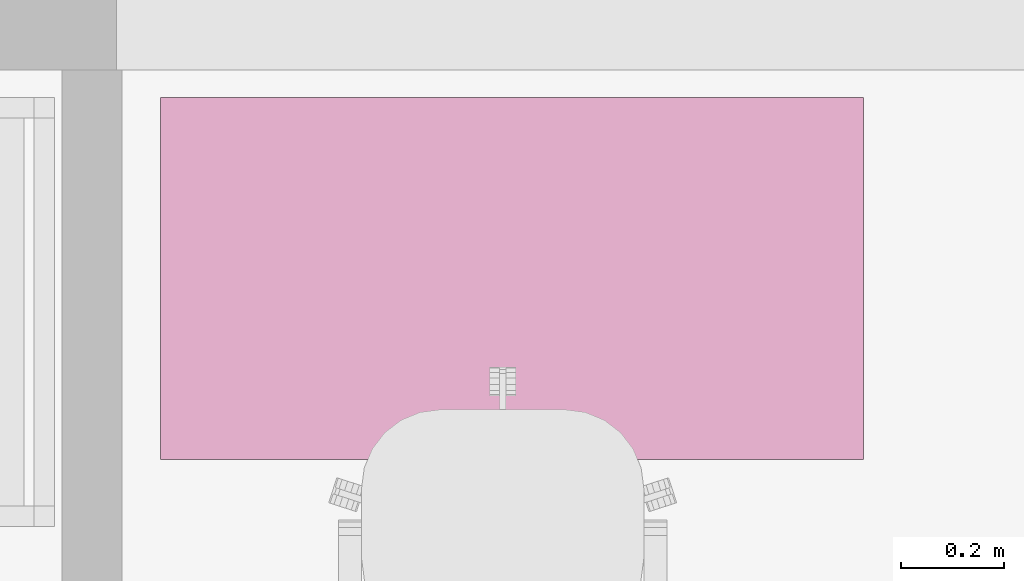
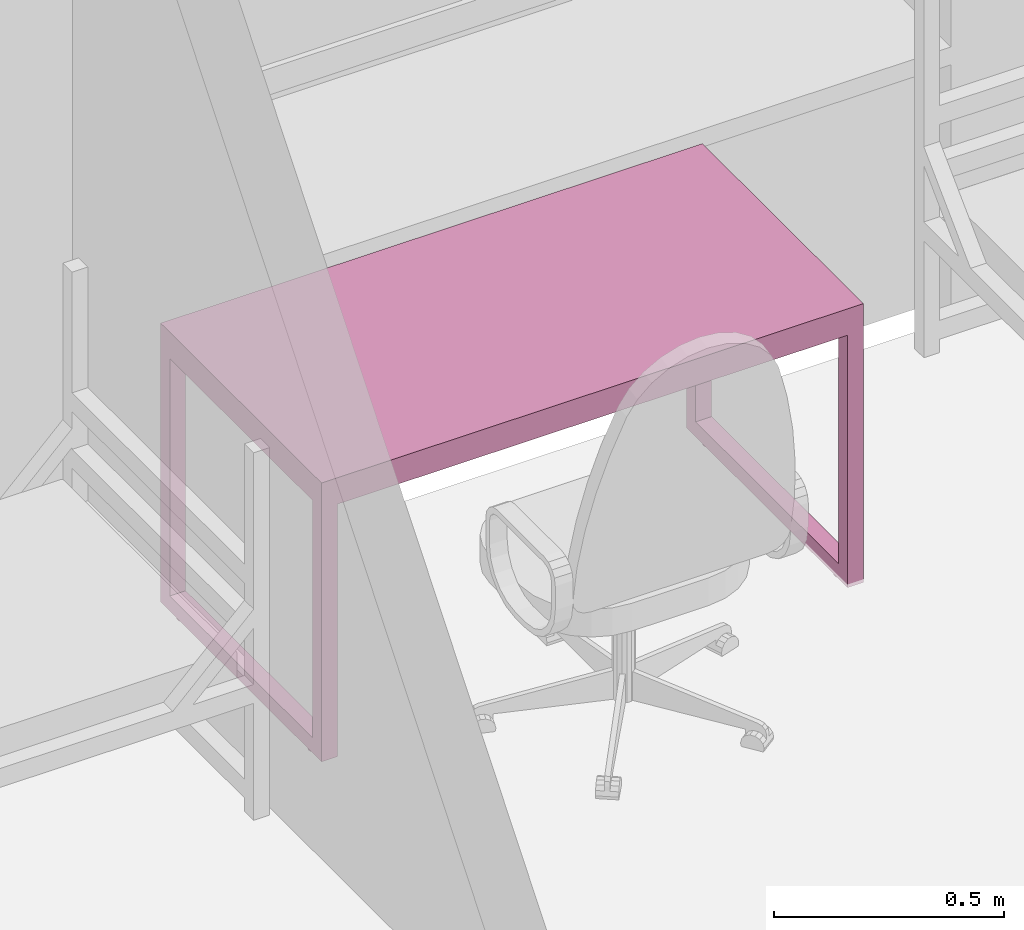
# One storey, part 47 of 48: 1 furnishing.
"""IFC2X3 building model written with IfcOpenShell, lengths in millimetres."""

from ifc_helpers import new_model, entity, si_unit, converted_unit, derived_unit, direction, frame, origin, place, context, subcontext, project, spatial, faceted_brep, source, transform, mapped, material, material_list, type_object, type_shapes, element, save


model = new_model("IFC2X3")

# Units and contexts
model_context = context("Model", 3, precision=0.01, world=origin(), true_north=direction((6.12303176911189e-17, 1.0)))
body_context = subcontext(model_context, "Body", "Model", "MODEL_VIEW")
ifc_project = project(units=[si_unit("LENGTHUNIT", "METRE", prefix="MILLI"), si_unit("AREAUNIT", "SQUARE_METRE"), si_unit("VOLUMEUNIT", "CUBIC_METRE"), converted_unit("PLANEANGLEUNIT", "DEGREE", entity("IfcRatioMeasure", 0.0174532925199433), si_unit("PLANEANGLEUNIT", "RADIAN"), dimensions=[0, 0, 0, 0, 0, 0, 0]), si_unit("MASSUNIT", "GRAM", prefix="KILO"), derived_unit("MASSDENSITYUNIT", [(si_unit("MASSUNIT", "GRAM", prefix="KILO"), 1), (si_unit("LENGTHUNIT", "METRE"), -3)]), si_unit("TIMEUNIT", "SECOND"), si_unit("FREQUENCYUNIT", "HERTZ"), si_unit("THERMODYNAMICTEMPERATUREUNIT", "DEGREE_CELSIUS"), derived_unit("THERMALTRANSMITTANCEUNIT", [(si_unit("MASSUNIT", "GRAM", prefix="KILO"), 1), (si_unit("THERMODYNAMICTEMPERATUREUNIT", "KELVIN"), -1), (si_unit("TIMEUNIT", "SECOND"), -3)]), derived_unit("VOLUMETRICFLOWRATEUNIT", [(si_unit("LENGTHUNIT", "METRE"), 3), (si_unit("TIMEUNIT", "SECOND"), -1)]), si_unit("ELECTRICCURRENTUNIT", "AMPERE"), si_unit("ELECTRICVOLTAGEUNIT", "VOLT"), si_unit("POWERUNIT", "WATT"), si_unit("FORCEUNIT", "NEWTON", prefix="KILO"), si_unit("ILLUMINANCEUNIT", "LUX"), si_unit("LUMINOUSFLUXUNIT", "LUMEN"), si_unit("LUMINOUSINTENSITYUNIT", "CANDELA"), derived_unit("USERDEFINED", [(si_unit("MASSUNIT", "GRAM", prefix="KILO"), -1), (si_unit("LENGTHUNIT", "METRE"), -2), (si_unit("TIMEUNIT", "SECOND"), 3), (si_unit("LUMINOUSFLUXUNIT", "LUMEN"), 1)]), derived_unit("LINEARVELOCITYUNIT", [(si_unit("LENGTHUNIT", "METRE"), 1), (si_unit("TIMEUNIT", "SECOND"), -1)]), si_unit("PRESSUREUNIT", "PASCAL"), derived_unit("USERDEFINED", [(si_unit("LENGTHUNIT", "METRE"), -2), (si_unit("MASSUNIT", "GRAM", prefix="KILO"), 1), (si_unit("TIMEUNIT", "SECOND"), -2)]), derived_unit("LINEARFORCEUNIT", [(si_unit("MASSUNIT", "GRAM", prefix="KILO"), 1), (si_unit("LENGTHUNIT", "METRE"), 1), (si_unit("TIMEUNIT", "SECOND"), -2), (si_unit("LENGTHUNIT", "METRE"), -1)]), derived_unit("PLANARFORCEUNIT", [(si_unit("MASSUNIT", "GRAM", prefix="KILO"), 1), (si_unit("LENGTHUNIT", "METRE"), 1), (si_unit("TIMEUNIT", "SECOND"), -2), (si_unit("LENGTHUNIT", "METRE"), -2)])], contexts=[model_context])

# Site, building, storey, space
site_placement = place(None, origin())
site = spatial("IfcSite", under=ifc_project, at=site_placement, Name="Default", CompositionType="ELEMENT")
building_placement = place(site_placement, origin())
building = spatial("IfcBuilding", under=site, at=building_placement, Name="SMA ARH", CompositionType="ELEMENT")
storey_placement = place(building_placement, frame((0.0, 0.0, 6600.0)))
storey = spatial("IfcBuildingStorey", under=building, at=storey_placement, Name="3 Korrus", CompositionType="ELEMENT", Elevation=6599.99999999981)
space_placement = place(storey_placement, origin())
space = spatial("IfcSpace", under=storey, at=space_placement, Name="3-31", CompositionType="ELEMENT", InteriorOrExteriorSpace="INTERNAL")

# Furnishing
ifc_material = material(Name="<Unnamed>")
ifc_material_list = material_list([ifc_material, ifc_material])
furniture_type = type_object("IfcFurnitureType", Name="kirjutuslaud 1360x700mm:kirjutuslaud 1360x700mm", material=ifc_material_list)
shared_shape = source(origin(), body_context, "Body", "Brep", [
    faceted_brep([(680.0, 350.0, 720.0), (680.0, 350.0, 750.0), (680.0, -350.0, 750.0), (680.0, -350.0, 720.0), (-680.0, 350.0, 720.0), (-680.0, -350.0, 720.0), (-680.0, -350.0, 750.0), (-680.0, 350.0, 750.0)], [[[0, 1, 2, 3]], [[4, 5, 6, 7]], [[3, 5, 4, 0]], [[2, 6, 5, 3]], [[1, 7, 6, 2]], [[0, 4, 7, 1]]]),
    faceted_brep([(-640.0, 310.0, 680.0), (-640.0, 310.0, 720.0), (-640.0, -310.0, 720.0), (-640.0, -310.0, 680.0), (-680.0, 350.0, 720.0), (-680.0, 350.0, 10.0), (-680.0, -350.0, 10.0), (-680.0, -350.0, 720.0), (-680.0, -310.0, 680.0), (-680.0, -310.0, 50.0), (-680.0, 310.0, 50.0), (-680.0, 310.0, 680.0), (680.0, 350.0, 720.0), (680.0, 350.0, 10.0), (640.0, 350.0, 10.0), (640.0, 350.0, 680.0), (-640.0, 350.0, 680.0), (-640.0, 350.0, 10.0), (-640.0, -350.0, 10.0), (-640.0, -350.0, 680.0), (640.0, -350.0, 680.0), (640.0, -350.0, 10.0), (680.0, -350.0, 10.0), (680.0, -350.0, 720.0), (640.0, 310.0, 720.0), (640.0, -310.0, 720.0), (-640.0, -310.0, 50.0), (-640.0, 310.0, 50.0), (640.0, -310.0, 680.0), (640.0, 310.0, 680.0), (680.0, -310.0, 680.0), (680.0, 310.0, 680.0), (680.0, 310.0, 50.0), (680.0, -310.0, 50.0), (640.0, -310.0, 50.0), (640.0, 310.0, 50.0)], [[[0, 1, 2, 3]], [[4, 5, 6, 7], [8, 9, 10, 11]], [[4, 12, 13, 14, 15, 16, 17, 5]], [[18, 6, 5, 17]], [[6, 18, 19, 20, 21, 22, 23, 7]], [[2, 1, 24, 25], [23, 12, 4, 7]], [[26, 9, 8, 3]], [[27, 10, 9, 26]], [[0, 11, 10, 27]], [[3, 8, 11, 0]], [[28, 20, 19, 3]], [[25, 28, 3, 2]], [[1, 0, 29, 24]], [[12, 23, 22, 13], [30, 31, 32, 33]], [[21, 20, 28, 34, 35, 29, 15, 14]], [[22, 21, 14, 13]], [[33, 34, 28, 30]], [[32, 35, 34, 33]], [[31, 29, 35, 32]], [[30, 28, 29, 31]], [[28, 25, 24, 29]], [[15, 29, 0, 16]], [[17, 16, 0, 27, 26, 3, 19, 18]]], outer=[[True], [True, False], [True], [True], [True], [False, True], [True], [True], [True], [True], [True], [True], [True], [True, False], [True], [True], [True], [True], [True], [True], [True], [True], [True]]),
    faceted_brep([(-655.964885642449, 270.466136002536, 0.0), (-659.847171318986, 269.955023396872, 0.0), (-663.729456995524, 270.466136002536, 0.0), (-667.347171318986, 271.964642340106, 0.0), (-670.453773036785, 274.348421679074, 0.0), (-672.837552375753, 277.455023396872, 0.0), (-674.336058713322, 281.072737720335, 0.0), (-674.847171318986, 284.955023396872, 0.0), (-674.336058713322, 288.83730907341, 0.0), (-672.837552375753, 292.455023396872, 0.0), (-670.453773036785, 295.561625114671, 0.0), (-667.347171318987, 297.945404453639, 0.0), (-663.729456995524, 299.443910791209, 0.0), (-659.847171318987, 299.955023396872, 0.0), (-655.964885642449, 299.443910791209, 0.0), (-652.347171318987, 297.945404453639, 0.0), (-649.240569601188, 295.561625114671, 0.0), (-646.85679026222, 292.455023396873, 0.0), (-645.35828392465, 288.83730907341, 0.0), (-644.847171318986, 284.955023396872, 0.0), (-645.35828392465, 281.072737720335, 0.0), (-646.85679026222, 277.455023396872, 0.0), (-649.240569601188, 274.348421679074, 0.0), (-652.347171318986, 271.964642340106, 0.0), (-649.240569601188, 295.561625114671, 10.0), (-652.347171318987, 297.945404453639, 10.0), (-655.964885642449, 299.443910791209, 10.0), (-659.847171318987, 299.955023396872, 10.0), (-663.729456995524, 299.443910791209, 10.0), (-667.347171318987, 297.945404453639, 10.0), (-670.453773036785, 295.561625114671, 10.0), (-672.837552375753, 292.455023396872, 10.0), (-674.336058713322, 288.83730907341, 10.0), (-674.847171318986, 284.955023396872, 10.0), (-674.336058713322, 281.072737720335, 10.0), (-672.837552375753, 277.455023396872, 10.0), (-670.453773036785, 274.348421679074, 10.0), (-667.347171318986, 271.964642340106, 10.0), (-663.729456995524, 270.466136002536, 10.0), (-659.847171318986, 269.955023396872, 10.0), (-655.964885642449, 270.466136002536, 10.0), (-652.347171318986, 271.964642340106, 10.0), (-649.240569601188, 274.348421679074, 10.0), (-646.85679026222, 277.455023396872, 10.0), (-645.35828392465, 281.072737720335, 10.0), (-644.847171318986, 284.955023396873, 10.0), (-645.35828392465, 288.83730907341, 10.0), (-646.85679026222, 292.455023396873, 10.0)], [[[0, 1, 2, 3, 4, 5, 6, 7, 8, 9, 10, 11, 12, 13, 14, 15, 16, 17, 18, 19, 20, 21, 22, 23]], [[24, 25, 26, 27, 28, 29, 30, 31, 32, 33, 34, 35, 36, 37, 38, 39, 40, 41, 42, 43, 44, 45, 46, 47]], [[7, 33, 32, 8]], [[8, 32, 31, 9]], [[11, 10, 30, 29]], [[30, 10, 9, 31]], [[12, 11, 29, 28]], [[12, 28, 27, 13]], [[13, 27, 26, 14]], [[14, 26, 25, 15]], [[17, 16, 24, 47]], [[24, 16, 15, 25]], [[18, 17, 47, 46]], [[18, 46, 45, 19]], [[19, 45, 44, 20]], [[20, 44, 43, 21]], [[23, 22, 42, 41]], [[42, 22, 21, 43]], [[0, 23, 41, 40]], [[0, 40, 39, 1]], [[1, 39, 38, 2]], [[2, 38, 37, 3]], [[5, 4, 36, 35]], [[36, 4, 3, 37]], [[6, 5, 35, 34]], [[6, 34, 33, 7]]]),
    faceted_brep([(-649.240569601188, -274.348421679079, 10.0), (-652.347171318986, -271.964642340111, 10.0), (-655.964885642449, -270.466136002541, 10.0), (-659.847171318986, -269.955023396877, 10.0), (-663.729456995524, -270.466136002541, 10.0), (-667.347171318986, -271.964642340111, 10.0), (-670.453773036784, -274.348421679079, 10.0), (-672.837552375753, -277.455023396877, 10.0), (-674.336058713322, -281.07273772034, 10.0), (-674.847171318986, -284.955023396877, 10.0), (-674.336058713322, -288.837309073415, 10.0), (-672.837552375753, -292.455023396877, 10.0), (-670.453773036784, -295.561625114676, 10.0), (-667.347171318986, -297.945404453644, 10.0), (-663.729456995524, -299.443910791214, 10.0), (-659.847171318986, -299.955023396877, 10.0), (-655.964885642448, -299.443910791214, 10.0), (-652.347171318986, -297.945404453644, 10.0), (-649.240569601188, -295.561625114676, 10.0), (-646.85679026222, -292.455023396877, 10.0), (-645.35828392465, -288.837309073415, 10.0), (-644.847171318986, -284.955023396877, 10.0), (-645.35828392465, -281.07273772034, 10.0), (-646.85679026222, -277.455023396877, 10.0), (-659.847171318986, -299.955023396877, 0.0), (-663.729456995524, -299.443910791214, 0.0), (-667.347171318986, -297.945404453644, 0.0), (-670.453773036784, -295.561625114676, 0.0), (-672.837552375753, -292.455023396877, 0.0), (-674.336058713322, -288.837309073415, 0.0), (-674.847171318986, -284.955023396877, 0.0), (-674.336058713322, -281.07273772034, 0.0), (-672.837552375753, -277.455023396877, 0.0), (-670.453773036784, -274.348421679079, 0.0), (-667.347171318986, -271.964642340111, 0.0), (-663.729456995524, -270.466136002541, 0.0), (-659.847171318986, -269.955023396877, 0.0), (-655.964885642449, -270.466136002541, 0.0), (-652.347171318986, -271.964642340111, 0.0), (-649.240569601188, -274.348421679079, 0.0), (-646.85679026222, -277.455023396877, 0.0), (-645.35828392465, -281.07273772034, 0.0), (-644.847171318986, -284.955023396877, 0.0), (-645.35828392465, -288.837309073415, 0.0), (-646.85679026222, -292.455023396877, 0.0), (-649.240569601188, -295.561625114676, 0.0), (-652.347171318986, -297.945404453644, 0.0), (-655.964885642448, -299.443910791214, 0.0)], [[[0, 1, 2, 3, 4, 5, 6, 7, 8, 9, 10, 11, 12, 13, 14, 15, 16, 17, 18, 19, 20, 21, 22, 23]], [[24, 25, 26, 27, 28, 29, 30, 31, 32, 33, 34, 35, 36, 37, 38, 39, 40, 41, 42, 43, 44, 45, 46, 47]], [[30, 9, 8, 31]], [[31, 8, 7, 32]], [[34, 33, 6, 5]], [[6, 33, 32, 7]], [[35, 34, 5, 4]], [[35, 4, 3, 36]], [[36, 3, 2, 37]], [[37, 2, 1, 38]], [[40, 39, 0, 23]], [[0, 39, 38, 1]], [[41, 40, 23, 22]], [[41, 22, 21, 42]], [[42, 21, 20, 43]], [[43, 20, 19, 44]], [[46, 45, 18, 17]], [[18, 45, 44, 19]], [[47, 46, 17, 16]], [[47, 16, 15, 24]], [[24, 15, 14, 25]], [[25, 14, 13, 26]], [[28, 27, 12, 11]], [[12, 27, 26, 13]], [[29, 28, 11, 10]], [[29, 10, 9, 30]]]),
    faceted_brep([(664.035114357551, 270.466136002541, 0.0), (660.152828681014, 269.955023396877, 0.0), (656.270543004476, 270.466136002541, 0.0), (652.652828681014, 271.96464234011, 0.0), (649.546226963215, 274.348421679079, 0.0), (647.162447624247, 277.455023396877, 0.0), (645.663941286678, 281.072737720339, 0.0), (645.152828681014, 284.955023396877, 0.0), (645.663941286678, 288.837309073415, 0.0), (647.162447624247, 292.455023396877, 0.0), (649.546226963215, 295.561625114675, 0.0), (652.652828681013, 297.945404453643, 0.0), (656.270543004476, 299.443910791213, 0.0), (660.152828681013, 299.955023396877, 0.0), (664.035114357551, 299.443910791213, 0.0), (667.652828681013, 297.945404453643, 0.0), (670.759430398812, 295.561625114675, 0.0), (673.14320973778, 292.455023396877, 0.0), (674.64171607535, 288.837309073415, 0.0), (675.152828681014, 284.955023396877, 0.0), (674.64171607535, 281.072737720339, 0.0), (673.14320973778, 277.455023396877, 0.0), (670.759430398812, 274.348421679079, 0.0), (667.652828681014, 271.96464234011, 0.0), (670.759430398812, 295.561625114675, 10.0), (667.652828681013, 297.945404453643, 10.0), (664.035114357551, 299.443910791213, 10.0), (660.152828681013, 299.955023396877, 10.0), (656.270543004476, 299.443910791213, 10.0), (652.652828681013, 297.945404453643, 10.0), (649.546226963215, 295.561625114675, 10.0), (647.162447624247, 292.455023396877, 10.0), (645.663941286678, 288.837309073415, 10.0), (645.152828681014, 284.955023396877, 10.0), (645.663941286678, 281.072737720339, 10.0), (647.162447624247, 277.455023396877, 10.0), (649.546226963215, 274.348421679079, 10.0), (652.652828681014, 271.96464234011, 10.0), (656.270543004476, 270.466136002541, 10.0), (660.152828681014, 269.955023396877, 10.0), (664.035114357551, 270.466136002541, 10.0), (667.652828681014, 271.96464234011, 10.0), (670.759430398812, 274.348421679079, 10.0), (673.14320973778, 277.455023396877, 10.0), (674.64171607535, 281.072737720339, 10.0), (675.152828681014, 284.955023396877, 10.0), (674.64171607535, 288.837309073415, 10.0), (673.14320973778, 292.455023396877, 10.0)], [[[0, 1, 2, 3, 4, 5, 6, 7, 8, 9, 10, 11, 12, 13, 14, 15, 16, 17, 18, 19, 20, 21, 22, 23]], [[24, 25, 26, 27, 28, 29, 30, 31, 32, 33, 34, 35, 36, 37, 38, 39, 40, 41, 42, 43, 44, 45, 46, 47]], [[7, 33, 32, 8]], [[8, 32, 31, 9]], [[11, 10, 30, 29]], [[30, 10, 9, 31]], [[12, 11, 29, 28]], [[12, 28, 27, 13]], [[13, 27, 26, 14]], [[14, 26, 25, 15]], [[17, 16, 24, 47]], [[24, 16, 15, 25]], [[18, 17, 47, 46]], [[18, 46, 45, 19]], [[19, 45, 44, 20]], [[20, 44, 43, 21]], [[23, 22, 42, 41]], [[42, 22, 21, 43]], [[0, 23, 41, 40]], [[0, 40, 39, 1]], [[1, 39, 38, 2]], [[2, 38, 37, 3]], [[5, 4, 36, 35]], [[36, 4, 3, 37]], [[6, 5, 35, 34]], [[6, 34, 33, 7]]]),
    faceted_brep([(670.759430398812, -274.348421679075, 10.0), (667.652828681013, -271.964642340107, 10.0), (664.035114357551, -270.466136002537, 10.0), (660.152828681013, -269.955023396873, 10.0), (656.270543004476, -270.466136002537, 10.0), (652.652828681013, -271.964642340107, 10.0), (649.546226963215, -274.348421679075, 10.0), (647.162447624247, -277.455023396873, 10.0), (645.663941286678, -281.072737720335, 10.0), (645.152828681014, -284.955023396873, 10.0), (645.663941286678, -288.837309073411, 10.0), (647.162447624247, -292.455023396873, 10.0), (649.546226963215, -295.561625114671, 10.0), (652.652828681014, -297.94540445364, 10.0), (656.270543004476, -299.443910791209, 10.0), (660.152828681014, -299.955023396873, 10.0), (664.035114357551, -299.443910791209, 10.0), (667.652828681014, -297.94540445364, 10.0), (670.759430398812, -295.561625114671, 10.0), (673.14320973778, -292.455023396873, 10.0), (674.64171607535, -288.837309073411, 10.0), (675.152828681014, -284.955023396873, 10.0), (674.64171607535, -281.072737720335, 10.0), (673.14320973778, -277.455023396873, 10.0), (660.152828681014, -299.955023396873, 0.0), (656.270543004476, -299.443910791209, 0.0), (652.652828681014, -297.94540445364, 0.0), (649.546226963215, -295.561625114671, 0.0), (647.162447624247, -292.455023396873, 0.0), (645.663941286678, -288.837309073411, 0.0), (645.152828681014, -284.955023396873, 0.0), (645.663941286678, -281.072737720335, 0.0), (647.162447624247, -277.455023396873, 0.0), (649.546226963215, -274.348421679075, 0.0), (652.652828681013, -271.964642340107, 0.0), (656.270543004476, -270.466136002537, 0.0), (660.152828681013, -269.955023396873, 0.0), (664.035114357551, -270.466136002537, 0.0), (667.652828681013, -271.964642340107, 0.0), (670.759430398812, -274.348421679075, 0.0), (673.14320973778, -277.455023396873, 0.0), (674.64171607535, -281.072737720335, 0.0), (675.152828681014, -284.955023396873, 0.0), (674.64171607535, -288.837309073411, 0.0), (673.14320973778, -292.455023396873, 0.0), (670.759430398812, -295.561625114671, 0.0), (667.652828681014, -297.94540445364, 0.0), (664.035114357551, -299.443910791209, 0.0)], [[[0, 1, 2, 3, 4, 5, 6, 7, 8, 9, 10, 11, 12, 13, 14, 15, 16, 17, 18, 19, 20, 21, 22, 23]], [[24, 25, 26, 27, 28, 29, 30, 31, 32, 33, 34, 35, 36, 37, 38, 39, 40, 41, 42, 43, 44, 45, 46, 47]], [[30, 9, 8, 31]], [[31, 8, 7, 32]], [[34, 33, 6, 5]], [[6, 33, 32, 7]], [[35, 34, 5, 4]], [[35, 4, 3, 36]], [[36, 3, 2, 37]], [[37, 2, 1, 38]], [[40, 39, 0, 23]], [[0, 39, 38, 1]], [[41, 40, 23, 22]], [[41, 22, 21, 42]], [[42, 21, 20, 43]], [[43, 20, 19, 44]], [[46, 45, 18, 17]], [[18, 45, 44, 19]], [[47, 46, 17, 16]], [[47, 16, 15, 24]], [[24, 15, 14, 25]], [[25, 14, 13, 26]], [[28, 27, 12, 11]], [[12, 27, 26, 13]], [[29, 28, 11, 10]], [[29, 10, 9, 30]]]),
])
type_shapes(furniture_type, [shared_shape])
furnishing_placement = place(space_placement, frame((32480.3924632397, 12096.686384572, 0.0), z_axis=(0.0, 0.0, 1.0), x_axis=(-1.0, 0.0, 0.0)))
element("IfcFurnishingElement", 1, at=furnishing_placement, inside=space, type_object=furniture_type, Name="kirjutuslaud 1360x700mm:kirjutuslaud 1360x700mm", ObjectType="kirjutuslaud 1360x700mm:kirjutuslaud 1360x700mm", context=body_context, shape_type="MappedRepresentation", body=[
    mapped(shared_shape, transform((0.0, 0.0, 0.0), scale=1.0)),
])

save(model, "model.ifc")
